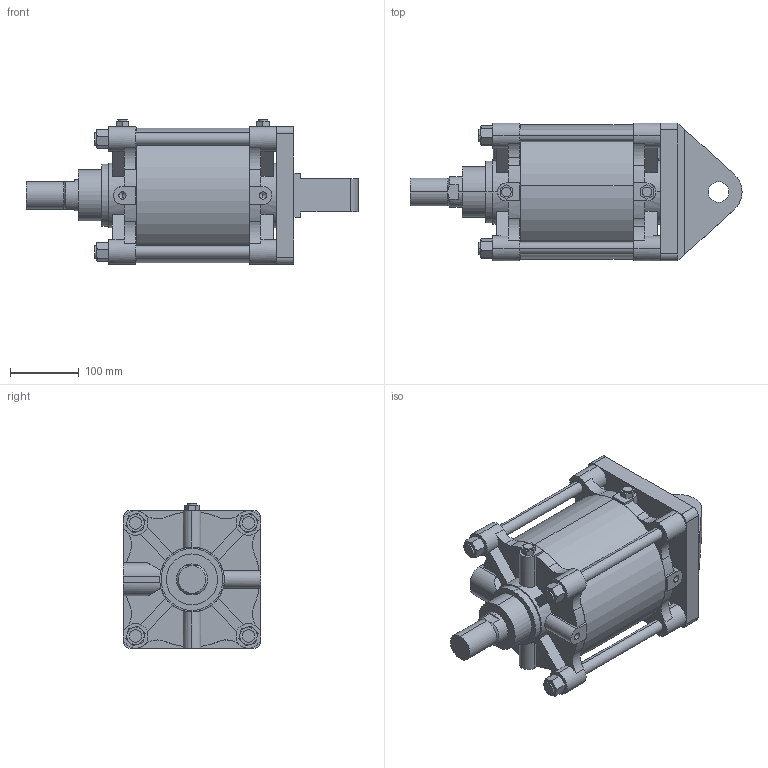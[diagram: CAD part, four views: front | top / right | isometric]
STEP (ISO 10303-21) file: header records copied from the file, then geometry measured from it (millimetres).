
FILE_DESCRIPTION (( 'STEP AP203' ), '1' );
FILE_NAME ('A##2-180#-100-C.STEP', '2016-03-31T06:58:19', ( '' ), ( '' ), 'SwSTEP 2.0', 'SolidWorks 2014', '' );
FILE_SCHEMA (( 'CONFIG_CONTROL_DESIGN' ));
Length unit declared in the file: millimetre
Products named in the file (7): A180-100; A##2-180#-100-C; A180-B; A180-C; A180-A
Assembly tree (12 placements, depth 2):
  A##2-180#-100-C
    A180-B
    A180-100
    A180-A
    (unnamed)  x4
    (unnamed)  x4
    A180-C
Bounding box: 482 x 200 x 210 mm (x, y, z)
Volume: 8920923.6 mm3; surface area: 650704.4 mm2
Topology: 12 solids, 14 shells, 355 faces, 912 edges, 586 vertices
Faces by surface type: plane 182, cylinder 133, torus 24, cone 16
Entity records: 10607 total; most frequent: CARTESIAN_POINT 2106, DIRECTION 1686, ORIENTED_EDGE 1548, EDGE_CURVE 774, AXIS2_PLACEMENT_3D 638, VERTEX_POINT 508, VECTOR 410, LINE 410
